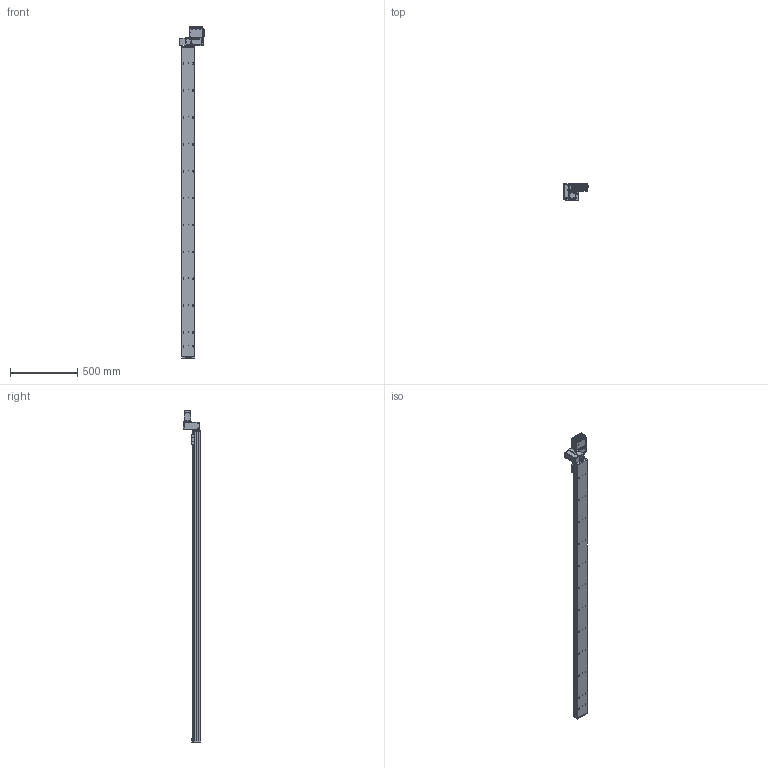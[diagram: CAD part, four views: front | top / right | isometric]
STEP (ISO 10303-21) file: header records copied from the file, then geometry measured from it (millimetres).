
FILE_DESCRIPTION (( 'STEP AP203' ), '1' );
FILE_NAME ('S10 TBN LT S2300.STEP', '2012-06-19T10:38:47', ( 'Conseil Régional Haute-Normandie' ), ( 'Conseil Régional Haute-Normandie' ), 'SwSTEP 2.0', 'SolidWorks 2010', '' );
FILE_SCHEMA (( 'CONFIG_CONTROL_DESIGN' ));
Length unit declared in the file: millimetre
Products named in the file (30): Cvis M5 L30_Default; cache t皻e_Default; vis M5 L12_Default; renvoi LH_Default; BU41 Carte Alimentation P05_3; Colonnette_3; BU45 Carte d''axe A11_5; Connecteur rond D12 4cts_5; Sub D 9cts 90_X2_00B_X0__3; Vis TF 3 torkx_1_1; axe2300_Default; axe 2300; S10 TBN LT S2300; cache t皻e axe_Default; embout; palette tbn; plaque de bout s10_Default; Plaque racord_Default; Vis M5 L16-2_Default_1; vis M5 L5_Default; Assem1_7; T_X2_00F4_X0_le contre le moteur_5; Moteur 60BLDC90A_3; Couvercle_3; T_X2_00F4_X0_le fond_3; Connecteur rond D10 3cts_5; Radiateur profil_X2_00E9_X0_ 100x25_3; Colonnette ronde_3; T_X2_00F4_X0_le Arri_X2_00E8_X0_re_5; T_X2_00F4_X0_le lat_X2_00E9_X0_rale_5
Assembly tree (63 placements, depth 3):
  S10 TBN LT S2300
    Cvis M5 L30_Default  x2
    Plaque racord_Default
    vis M5 L12_Default  x4
    cache t皻e_Default  x2
    axe2300_Default
      axe 2300
    Vis M5 L16-2_Default_1  x4
    Assem1_7
      T_X2_00F4_X0_le Arri_X2_00E8_X0_re_5
      Vis TF 3 torkx_1_1  x21
      Radiateur profil_X2_00E9_X0_ 100x25_3
      T_X2_00F4_X0_le fond_3
      Connecteur rond D10 3cts_5  x2
      Connecteur rond D12 4cts_5
      BU41 Carte Alimentation P05_3
      Moteur 60BLDC90A_3
      Colonnette_3  x2
      T_X2_00F4_X0_le lat_X2_00E9_X0_rale_5  x2
      Sub D 9cts 90_X2_00B_X0__3
      BU45 Carte d''axe A11_5
      Couvercle_3
      Colonnette ronde_3
      T_X2_00F4_X0_le contre le moteur_5
    cache t皻e axe_Default
    embout
    vis M5 L5_Default  x4
    palette tbn
    plaque de bout s10_Default
    renvoi LH_Default
Bounding box: 189.8 x 127 x 2466.49 mm (x, y, z)
Volume: 12715665.9 mm3; surface area: 1380827.7 mm2
Topology: 61 solids, 61 shells, 2351 faces, 5823 edges, 3762 vertices
Faces by surface type: plane 1108, cylinder 1026, cone 174, bspline 40, torus 3
Entity records: 49421 total; most frequent: CARTESIAN_POINT 8876, DIRECTION 8010, ORIENTED_EDGE 7242, EDGE_CURVE 3621, AXIS2_PLACEMENT_3D 2995, VERTEX_POINT 2366, VECTOR 2020, LINE 2020
